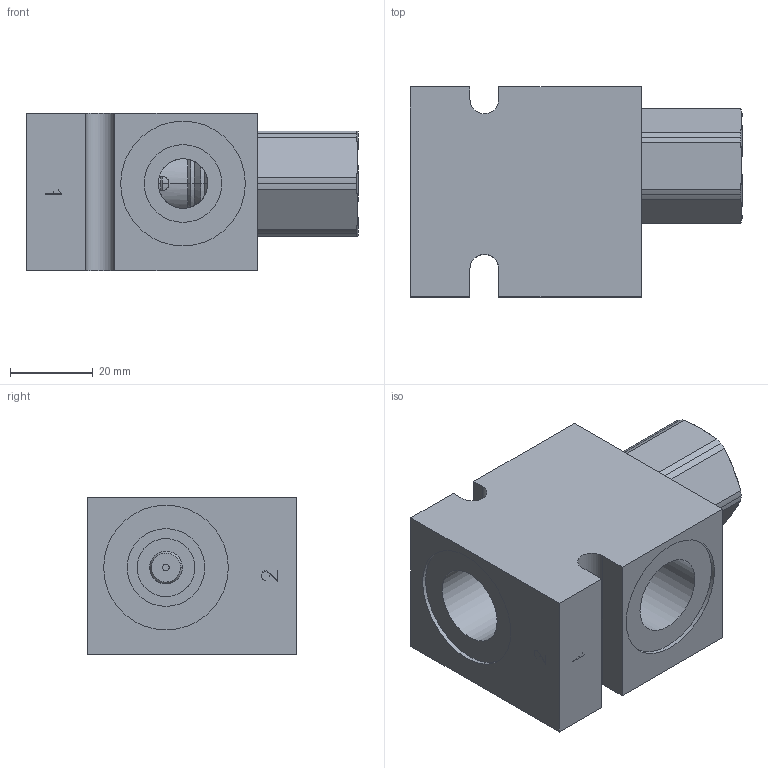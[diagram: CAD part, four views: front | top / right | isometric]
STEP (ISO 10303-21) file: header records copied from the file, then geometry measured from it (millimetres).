
FILE_DESCRIPTION( ( 'Unknown' ), '1' );
FILE_NAME( 'G:/Graphic Design/Graphic Design 2/Data Sheets/MANUAL_MECH OPERATED VALVES/4_STEP/Check Valves with Thermal Relief/D-DECVT00-C2.stp', 'Unknown', ( 'Unknown' ), ( 'Unknown' ), 'PSStep 16.0.42', 'Unknown', ' ' );
FILE_SCHEMA( ( 'AUTOMOTIVE_DESIGN { 1 0 10303 214 1 1 1 1 }' ) );
Length unit declared in the file: millimetre
Products named in the file (7): DECVT00; DECVT00-3D Full1; DECVT00-3D Full2; DECVT00-3D Full3; DECVT00-3D Full4; Assem1; B-DDEC2
Assembly tree (6 placements, depth 3):
  Assem1
    B-DDEC2
    DECVT00
      DECVT00-3D Full1
      DECVT00-3D Full2
      DECVT00-3D Full3
      DECVT00-3D Full4
Bounding box: 80.35 x 50.8 x 38.1 mm (x, y, z)
Surface area: 25805.9 mm2 (no closed solid volume)
Topology: 0 solids, 206 shells, 206 faces, 992 edges, 968 vertices
Faces by surface type: plane 78, cylinder 65, cone 49, torus 14
Full cylindrical faces by diameter (mm): 0.2 x2, 12 x1, 13.043 x1, 14 x1, 15.735 x1, 15.9 x1, 17.043 x1, 18.8 x4, 20.262 x2, 30.17 x2, 30.175 x1
Entity records: 14624 total; most frequent: CARTESIAN_POINT 6062, DIRECTION 1254, VERTEX_POINT 958, ORIENTED_EDGE 956, EDGE_CURVE 956, AXIS2_PLACEMENT_3D 470, B_SPLINE_CURVE_WITH_KNOTS 386, LINE 314
